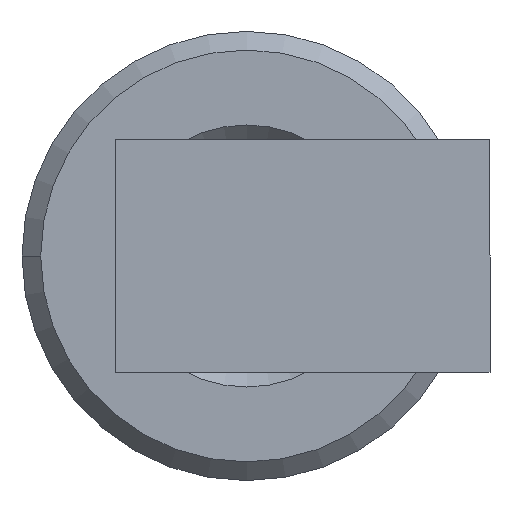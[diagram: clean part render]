
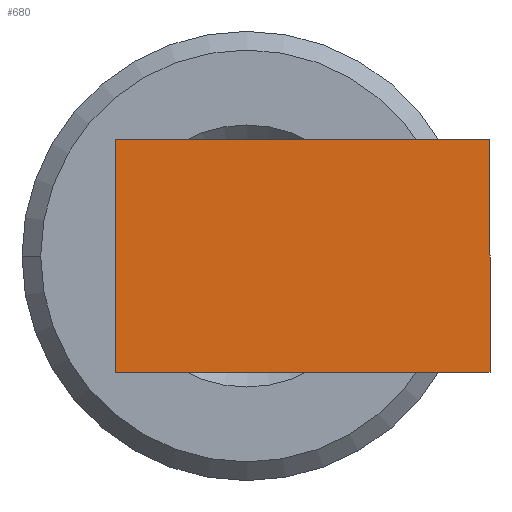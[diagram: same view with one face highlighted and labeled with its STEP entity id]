
A CAD part, left-side view. The second image highlights one B-rep face of the part: STEP entity #680.
In plain terms, the highlighted planar face has unit normal (-1, 0, 0).
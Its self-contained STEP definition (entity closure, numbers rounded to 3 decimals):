
#96 = DIRECTION ( 'NONE',  ( -1., 0., 0. ) ) ;
#127 = CARTESIAN_POINT ( 'NONE',  ( -175., -6.5, -3.1 ) ) ;
#279 = EDGE_CURVE ( 'NONE', #2958, #1314, #610, .T. ) ;
#385 = ORIENTED_EDGE ( 'NONE', *, *, #2484, .T. ) ;
#610 = LINE ( 'NONE', #1979, #1526 ) ;
#623 = VECTOR ( 'NONE', #3197, 1000. ) ;
#647 = CARTESIAN_POINT ( 'NONE',  ( -175., 0., 0. ) ) ;
#680 = ADVANCED_FACE ( 'NONE', ( #1955 ), #2899, .T. ) ;
#735 = VERTEX_POINT ( 'NONE', #127 ) ;
#1028 = CARTESIAN_POINT ( 'NONE',  ( -175., 3.5, -3.1 ) ) ;
#1094 = EDGE_LOOP ( 'NONE', ( #1804, #385, #1294, #1721 ) ) ;
#1195 = DIRECTION ( 'NONE',  ( 0., 0., 1. ) ) ;
#1246 = CARTESIAN_POINT ( 'NONE',  ( -175., 3.5, 3.1 ) ) ;
#1277 = DIRECTION ( 'NONE',  ( 0., 1., 0. ) ) ;
#1294 = ORIENTED_EDGE ( 'NONE', *, *, #3308, .T. ) ;
#1314 = VERTEX_POINT ( 'NONE', #1246 ) ;
#1349 = EDGE_CURVE ( 'NONE', #735, #2958, #1749, .T. ) ;
#1375 = DIRECTION ( 'NONE',  ( 0., -1., 0. ) ) ;
#1380 = LINE ( 'NONE', #2806, #2347 ) ;
#1526 = VECTOR ( 'NONE', #1195, 1000. ) ;
#1721 = ORIENTED_EDGE ( 'NONE', *, *, #279, .F. ) ;
#1749 = LINE ( 'NONE', #2560, #3030 ) ;
#1804 = ORIENTED_EDGE ( 'NONE', *, *, #1349, .F. ) ;
#1926 = LINE ( 'NONE', #2394, #623 ) ;
#1955 = FACE_OUTER_BOUND ( 'NONE', #1094, .T. ) ;
#1979 = CARTESIAN_POINT ( 'NONE',  ( -175., 3.5, -15. ) ) ;
#2016 = DIRECTION ( 'NONE',  ( 0., 0., 1. ) ) ;
#2300 = VERTEX_POINT ( 'NONE', #2529 ) ;
#2347 = VECTOR ( 'NONE', #2016, 1000. ) ;
#2394 = CARTESIAN_POINT ( 'NONE',  ( -175., -12.5, 3.1 ) ) ;
#2443 = AXIS2_PLACEMENT_3D ( 'NONE', #647, #96, #1375 ) ;
#2484 = EDGE_CURVE ( 'NONE', #735, #2300, #1380, .T. ) ;
#2529 = CARTESIAN_POINT ( 'NONE',  ( -175., -6.5, 3.1 ) ) ;
#2560 = CARTESIAN_POINT ( 'NONE',  ( -175., -12.5, -3.1 ) ) ;
#2806 = CARTESIAN_POINT ( 'NONE',  ( -175., -6.5, -15. ) ) ;
#2899 = PLANE ( 'NONE',  #2443 ) ;
#2958 = VERTEX_POINT ( 'NONE', #1028 ) ;
#3030 = VECTOR ( 'NONE', #1277, 1000. ) ;
#3197 = DIRECTION ( 'NONE',  ( 0., 1., 0. ) ) ;
#3308 = EDGE_CURVE ( 'NONE', #2300, #1314, #1926, .T. ) ;
